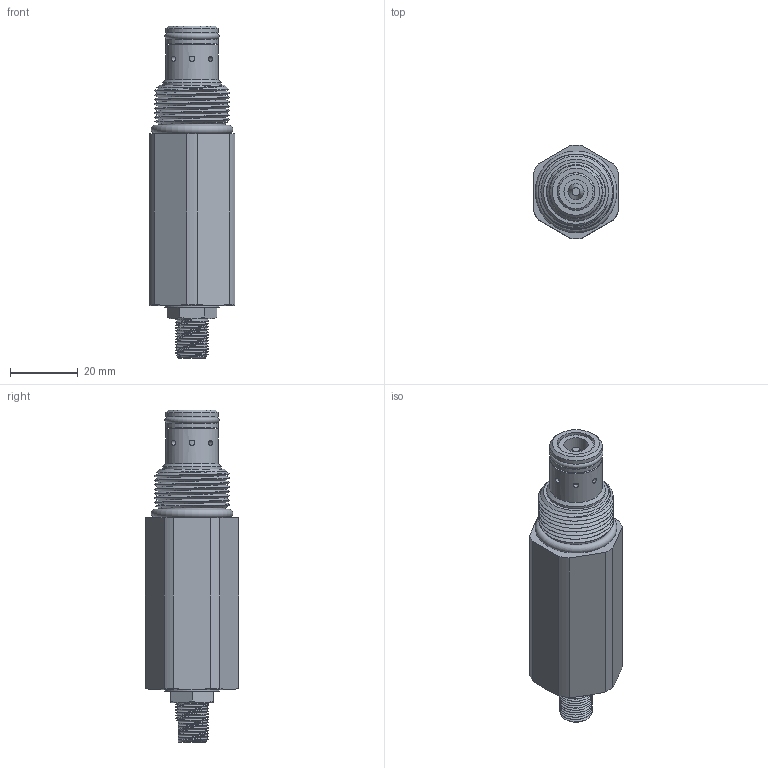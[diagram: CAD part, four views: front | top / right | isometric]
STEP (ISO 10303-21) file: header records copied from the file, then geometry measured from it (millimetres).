
FILE_DESCRIPTION(/* description */ ('DE-FAR-00-0012'),/* implementation_level */ '2;1');
FILE_NAME(/* name */ 'P:\EARS\EAR16xx\EAR1683 - catalog pages changes\Group1_Distribution 11_22_22\RTeck Agency_Tom\_SolidModels\DEFAR00.stp',/* time_stamp */ '2022-12-12T11:21:13-06:00',/* author */ ('Michael'),/* organization */ (''),/* preprocessor_version */ 'ST-DEVELOPER v17.2',/* originating_system */ 'Autodesk Inventor 2019',/* authorisation */ '');
FILE_SCHEMA (('AUTOMOTIVE_DESIGN { 1 0 10303 214 3 1 1 }'));
Length unit declared in the file: inch
Products named in the file (1): 85020991
Bounding box: 25.4 x 27.67 x 98.07 mm (x, y, z)
Volume: 37189.2 mm3; surface area: 11782.3 mm2
Topology: 1 solids, 2 shells, 256 faces, 716 edges, 500 vertices
Faces by surface type: plane 103, cylinder 97, cone 32, bspline 18, torus 6
Full cylindrical faces by diameter (mm): 1.575 x8, 2.388 x3, 3.175 x3, 3.962 x1, 4.775 x1, 7.137 x1, 9.525 x5, 10.414 x6, 11.12 x7, 11.14 x2, 12.7 x1, 12.992 x3, 15.392 x1, 15.507 x2, 16.105 x1, 17.323 x1, 17.399 x1, 19.621 x2, 22.225 x6
Entity records: 16401 total; most frequent: CARTESIAN_POINT 9825, ORIENTED_EDGE 1430, DIRECTION 1208, EDGE_CURVE 715, VERTEX_POINT 500, AXIS2_PLACEMENT_3D 478, EDGE_LOOP 313, FACE_OUTER_BOUND 256
